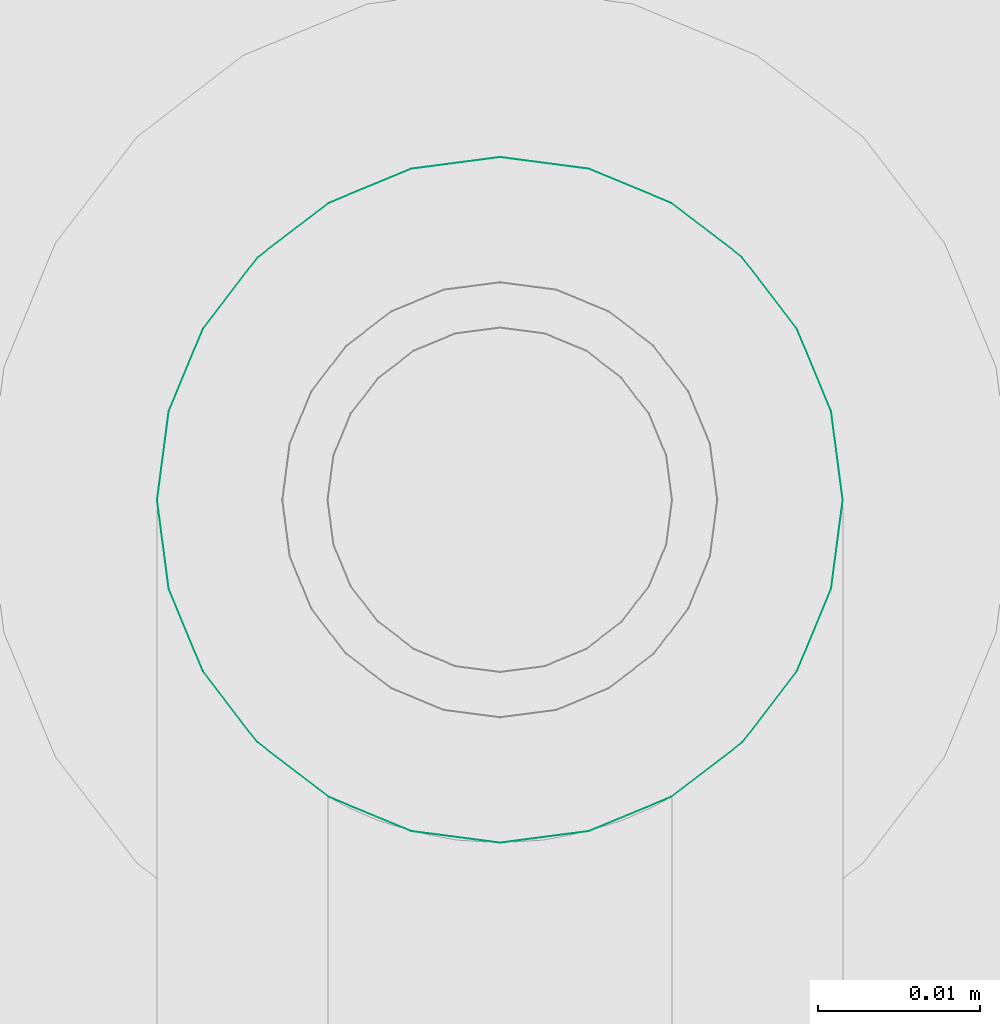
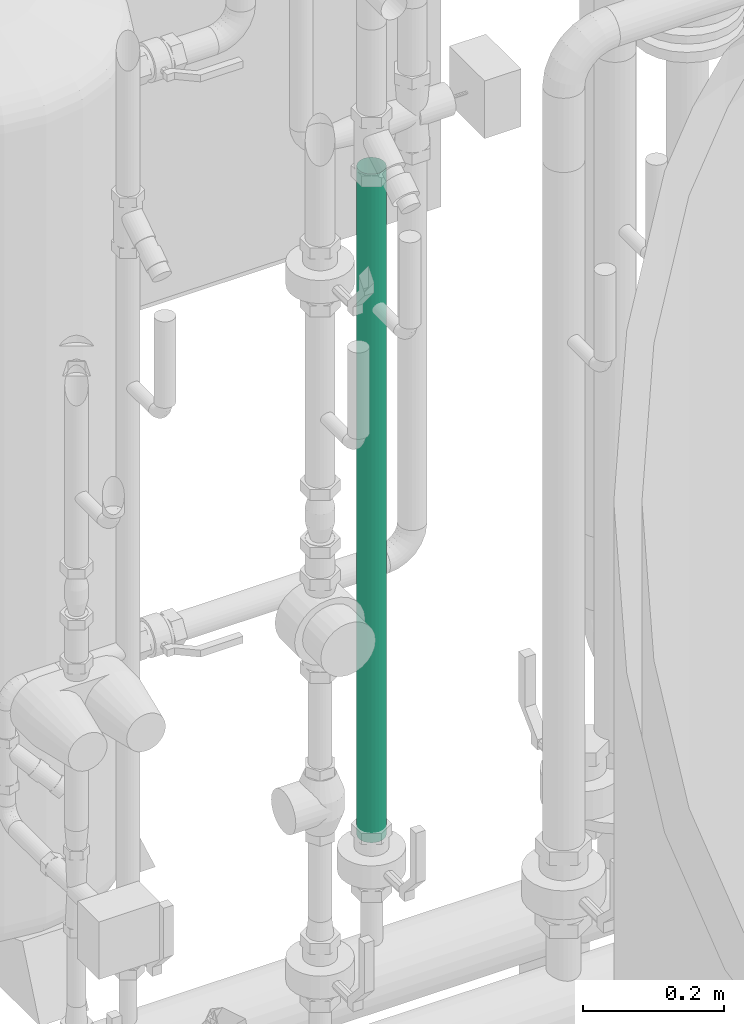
# One storey, part 210 of 374: 1 flow segment.
"""IFC2X3 building model written with IfcOpenShell, lengths in metres."""

from ifc_helpers import new_model, si_unit, direction, origin, place, context, subcontext, project, spatial, open_shell, surface_model, source, transform, mapped, element, save


model = new_model("IFC2X3")

# Units and contexts
model_context = context("Model", 3, precision=1e-05, world=origin(), true_north=direction((-0.4480736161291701, 0.8939966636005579)))
body_context = subcontext(model_context, "Body", "Model", "MODEL_VIEW")
ifc_project = project(units=[si_unit("LENGTHUNIT", "METRE"), si_unit("AREAUNIT", "SQUARE_METRE"), si_unit("VOLUMEUNIT", "CUBIC_METRE"), si_unit("PLANEANGLEUNIT", "RADIAN"), si_unit("THERMODYNAMICTEMPERATUREUNIT", "KELVIN"), si_unit("MASSUNIT", "GRAM", prefix="KILO"), si_unit("TIMEUNIT", "SECOND")], contexts=[model_context])

# Site, building, storey
site_placement = place(None, origin())
site = spatial("IfcSite", under=ifc_project, at=site_placement, Name="Site 1", CompositionType="ELEMENT")
building_placement = place(site_placement, origin())
building = spatial("IfcBuilding", under=site, at=building_placement, Name="Undefined", CompositionType="ELEMENT")
storey_placement = place(building_placement, origin())
storey = spatial("IfcBuildingStorey", under=building, at=storey_placement, Name="Rez de chauss\x8ee", CompositionType="ELEMENT", Elevation=0.0)

# Flow segment
shared_shape = source(origin(), body_context, "Body", "SurfaceModel", [
    surface_model("IfcFaceBasedSurfaceModel", [(0.0, 0.005534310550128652, 0.0), (0.0, 0.0, 0.0), (1.1610233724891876, 8.8817842e-16, 0.0), (1.1610233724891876, 0.005534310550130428, -7.105427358e-15), (0.0, -0.00534573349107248, -0.0014323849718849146), (1.1610233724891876, -0.005345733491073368, -0.0014323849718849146), (0.0, -0.010138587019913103, -0.004199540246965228), (1.1610233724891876, -0.010138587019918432, -0.004199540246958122), (0.0, -0.01405193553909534, -0.008112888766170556), (1.1610233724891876, -0.014051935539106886, -0.00811288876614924), (0.0, -0.016819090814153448, -0.012905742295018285), (1.1610233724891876, -0.01681909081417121, -0.012905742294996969), (0.0, -0.018251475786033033, -0.018251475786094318), (1.1610233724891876, -0.018251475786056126, -0.018251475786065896), (0.0, -0.0182514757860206, -0.02378578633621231), (1.1610233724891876, -0.018251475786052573, -0.0237857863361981), (0.0, -0.01681909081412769, -0.029131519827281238), (1.1610233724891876, -0.016819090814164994, -0.029131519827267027), (0.0, -0.014051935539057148, -0.03392437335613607), (1.1610233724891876, -0.01405193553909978, -0.033924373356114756), (0.0, -0.010138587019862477, -0.037837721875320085), (1.1610233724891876, -0.01013858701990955, -0.03783772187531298), (0.0, -0.005345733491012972, -0.040604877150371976), (1.1610233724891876, -0.005345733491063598, -0.040604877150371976), (0.0, 6.4837024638e-14, -0.042037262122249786), (1.1610233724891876, 1.1546319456e-14, -0.04203726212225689), (0.0, 0.005534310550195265, -0.04203726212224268), (1.1610233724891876, 0.005534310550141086, -0.04203726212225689), (0.0, 0.010880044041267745, -0.04060487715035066), (1.1610233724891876, 0.010880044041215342, -0.040604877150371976), (0.0, 0.01567289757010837, -0.03783772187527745), (1.1610233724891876, 0.01567289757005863, -0.03783772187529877), (0.0, 0.019586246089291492, -0.033924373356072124), (1.1610233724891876, 0.01958624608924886, -0.033924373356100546), (0.0, 0.0223534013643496, -0.029131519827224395), (1.1610233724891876, 0.022353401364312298, -0.029131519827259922), (0.0, 0.02378578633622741, -0.023785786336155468), (1.1610233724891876, 0.023785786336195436, -0.023785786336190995), (0.0, 0.023785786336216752, -0.01825147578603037), (1.1610233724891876, 0.02378578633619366, -0.01825147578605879), (0.0, 0.022353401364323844, -0.012905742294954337), (1.1610233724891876, 0.02235340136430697, -0.012905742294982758), (0.0, 0.019586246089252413, -0.008112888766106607), (1.1610233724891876, 0.019586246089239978, -0.008112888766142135), (0.0, 0.015672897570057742, -0.004199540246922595), (1.1610233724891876, 0.015672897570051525, -0.004199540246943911), (0.0, 0.010880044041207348, -0.0014323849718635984), (1.1610233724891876, 0.010880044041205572, -0.0014323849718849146)], [open_shell([[[0, 1, 2, 3]], [[1, 4, 5, 2]], [[4, 6, 7, 5]], [[6, 8, 9, 7]], [[8, 10, 11, 9]], [[10, 12, 13, 11]], [[12, 14, 15, 13]], [[14, 16, 17, 15]], [[16, 18, 19, 17]], [[18, 20, 21, 19]], [[20, 22, 23, 21]], [[22, 24, 25, 23]], [[24, 26, 27, 25]], [[26, 28, 29, 27]], [[28, 30, 31, 29]], [[30, 32, 33, 31]], [[32, 34, 35, 33]], [[34, 36, 37, 35]], [[36, 38, 39, 37]], [[38, 40, 41, 39]], [[40, 42, 43, 41]], [[42, 44, 45, 43]], [[44, 46, 47, 45]], [[46, 0, 3, 47]]])]),
])
flow_segment_placement = place(storey_placement, origin())
element("IfcFlowSegment", 1, at=flow_segment_placement, inside=storey, Name="Tube acier d'après DIN 2448", ObjectType="Tube acier d'après DIN 2448", context=body_context, shape_type="MappedRepresentation", body=[
    mapped(shared_shape, transform((53.87803964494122, 10.923524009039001, 0.5389499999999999), x_axis=(0.0, 0.0, 1.0), y_axis=(0.13052619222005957, -0.9914448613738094, 0.0), z_axis=(0.9914448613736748, 0.13052619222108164, 0.0))),
])

save(model, "model.ifc")
